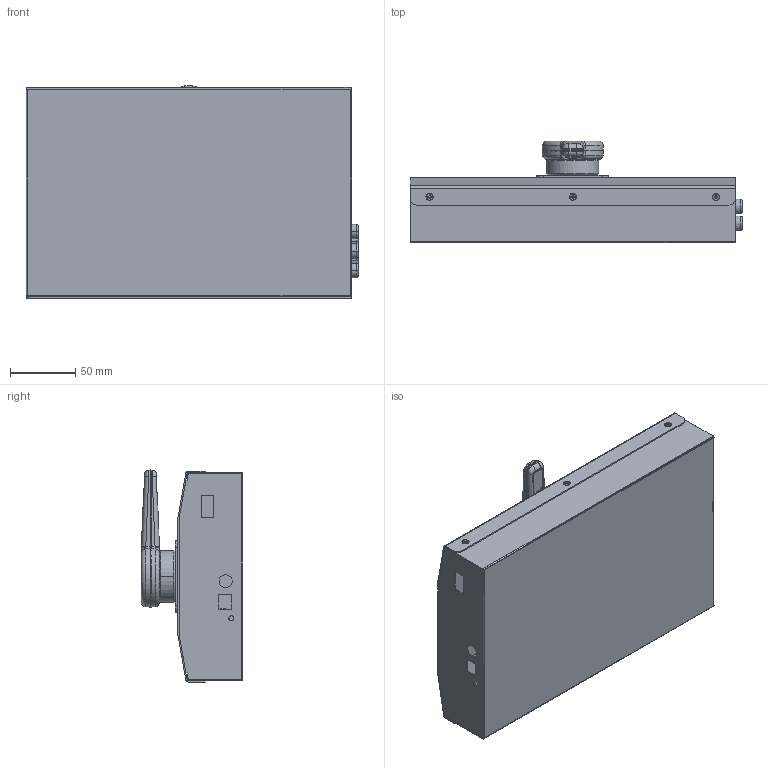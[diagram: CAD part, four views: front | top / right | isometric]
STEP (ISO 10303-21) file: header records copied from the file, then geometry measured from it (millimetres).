
FILE_DESCRIPTION((''),'2;1');
FILE_NAME('ATE100P-ASM_ASM','2018-08-05T',('Jony'),(''),'PRO/ENGINEER BY PARAMETRIC TECHNOLOGY CORPORATION, 2014090','PRO/ENGINEER BY PARAMETRIC TECHNOLOGY CORPORATION, 2014090','');
FILE_SCHEMA(('CONFIG_CONTROL_DESIGN'));
Products named in the file (14): ATE100P-IRB; ATE100P-IRT; PART1; FINGER_MODULE_BOTTOM; FINGER-PCB; FINGER-TOP; FINGER-BOTTOM-02; OD2_5_SCREW; LENS; FINGER_MODULE_ASM; RCA-1; I-M3_L5; I-M3_L15; ATE100P-ASM_ASM
Assembly tree (29 placements, depth 3):
  ATE100P-ASM_ASM
    ATE100P-IRB
    ATE100P-IRT
    PART1
    FINGER_MODULE_BOTTOM
    FINGER_MODULE_ASM
      FINGER-PCB
      FINGER-TOP
      FINGER-BOTTOM-02
      OD2_5_SCREW  x2
      LENS  x2
    RCA-1  x5
    I-M3_L5  x10
    I-M3_L15  x2
Bounding box: 255 x 77.9 x 162.84 mm (x, y, z)
Volume: 143638.9 mm3; surface area: 287339.8 mm2
Topology: 28 solids, 28 shells, 1787 faces, 4500 edges, 2838 vertices
Faces by surface type: cylinder 811, plane 543, bspline 234, torus 112, cone 65, extrusion 12, revolution 10
Entity records: 51537 total; most frequent: CARTESIAN_POINT 26962, ORIENTED_EDGE 5196, DIRECTION 4867, EDGE_CURVE 2598, AXIS2_PLACEMENT_3D 1864, VERTEX_POINT 1594, EDGE_LOOP 1188, VECTOR 1137
